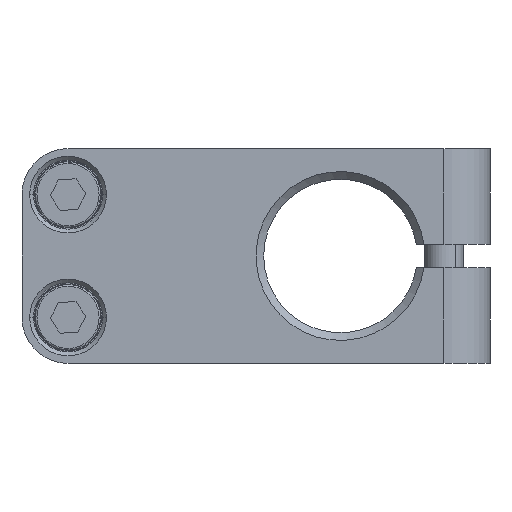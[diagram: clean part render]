
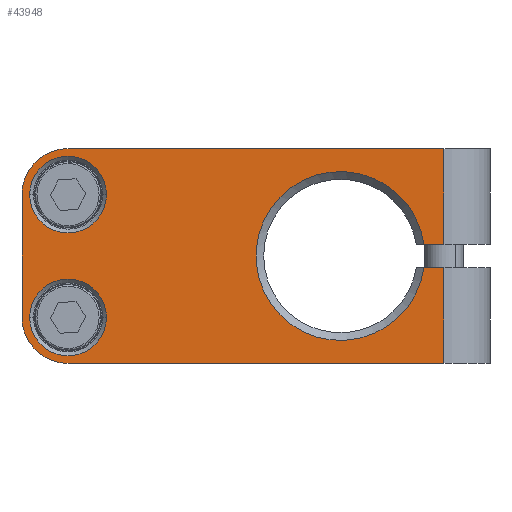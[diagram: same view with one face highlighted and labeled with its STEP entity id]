
A CAD part, front view. The second image highlights one B-rep face of the part: STEP entity #43948.
In plain terms, the highlighted planar face has unit normal (0, -1, 0).
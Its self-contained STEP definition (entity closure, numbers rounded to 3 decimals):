
#429 = FACE_BOUND ( 'NONE', #19327, .T. ) ;
#434 = DIRECTION ( 'NONE',  ( 1., 0., 0. ) ) ;
#554 = CARTESIAN_POINT ( 'NONE',  ( -11.681, 8.096, -22.403 ) ) ;
#1485 = EDGE_CURVE ( 'NONE', #24439, #2081, #42775, .T. ) ;
#1993 = CARTESIAN_POINT ( 'NONE',  ( -17.681, 8.096, -38.403 ) ) ;
#2011 = AXIS2_PLACEMENT_3D ( 'NONE', #17750, #16886, #6444 ) ;
#2081 = VERTEX_POINT ( 'NONE', #10574 ) ;
#2968 = PLANE ( 'NONE',  #40003 ) ;
#3474 = CARTESIAN_POINT ( 'NONE',  ( 37.319, 8.096, -16.403 ) ) ;
#3479 = LINE ( 'NONE', #44107, #17529 ) ;
#3782 = CARTESIAN_POINT ( 'NONE',  ( 37.319, 8.096, -44.403 ) ) ;
#4293 = CARTESIAN_POINT ( 'NONE',  ( 37.319, 8.096, -30.403 ) ) ;
#4713 = LINE ( 'NONE', #15178, #35232 ) ;
#5546 = EDGE_CURVE ( 'NONE', #18550, #26219, #3479, .T. ) ;
#5562 = VERTEX_POINT ( 'NONE', #34925 ) ;
#5637 = CARTESIAN_POINT ( 'NONE',  ( -11.681, 8.096, -22.403 ) ) ;
#6131 = CARTESIAN_POINT ( 'NONE',  ( -11.681, 8.096, -38.403 ) ) ;
#6444 = DIRECTION ( 'NONE',  ( 1., 0., 0. ) ) ;
#8019 = CARTESIAN_POINT ( 'NONE',  ( -17.681, 8.096, -22.403 ) ) ;
#8148 = AXIS2_PLACEMENT_3D ( 'NONE', #15847, #43446, #39347 ) ;
#8384 = ORIENTED_EDGE ( 'NONE', *, *, #5546, .F. ) ;
#8594 = DIRECTION ( 'NONE',  ( -1., 0., 0. ) ) ;
#9124 = DIRECTION ( 'NONE',  ( 0., -1., 0. ) ) ;
#9225 = ORIENTED_EDGE ( 'NONE', *, *, #18240, .F. ) ;
#9718 = EDGE_CURVE ( 'NONE', #24135, #33825, #35487, .T. ) ;
#10344 = EDGE_CURVE ( 'NONE', #35835, #16112, #38790, .T. ) ;
#10574 = CARTESIAN_POINT ( 'NONE',  ( 34.716, 8.096, -31.903 ) ) ;
#11103 = ORIENTED_EDGE ( 'NONE', *, *, #17770, .F. ) ;
#11426 = DIRECTION ( 'NONE',  ( -1., 0., 0. ) ) ;
#11827 = CARTESIAN_POINT ( 'NONE',  ( -11.681, 8.096, -44.403 ) ) ;
#11840 = ORIENTED_EDGE ( 'NONE', *, *, #13411, .F. ) ;
#11869 = DIRECTION ( 'NONE',  ( 0., 1., 0. ) ) ;
#11920 = ORIENTED_EDGE ( 'NONE', *, *, #38220, .F. ) ;
#12404 = EDGE_LOOP ( 'NONE', ( #11103, #29234 ) ) ;
#12451 = VECTOR ( 'NONE', #434, 1000. ) ;
#13197 = ORIENTED_EDGE ( 'NONE', *, *, #26464, .F. ) ;
#13411 = EDGE_CURVE ( 'NONE', #26219, #35835, #20332, .T. ) ;
#14185 = DIRECTION ( 'NONE',  ( 1., 0., 0. ) ) ;
#14791 = VECTOR ( 'NONE', #11426, 1000. ) ;
#15077 = CARTESIAN_POINT ( 'NONE',  ( 15.819, 8.096, -16.403 ) ) ;
#15178 = CARTESIAN_POINT ( 'NONE',  ( 37.319, 8.096, -22.653 ) ) ;
#15261 = ORIENTED_EDGE ( 'NONE', *, *, #17593, .F. ) ;
#15514 = CARTESIAN_POINT ( 'NONE',  ( 37.319, 8.096, -31.903 ) ) ;
#15847 = CARTESIAN_POINT ( 'NONE',  ( -11.681, 8.096, -38.403 ) ) ;
#15914 = CARTESIAN_POINT ( 'NONE',  ( 34.716, 8.096, -28.903 ) ) ;
#16052 = DIRECTION ( 'NONE',  ( -1., 0., 0. ) ) ;
#16112 = VERTEX_POINT ( 'NONE', #3474 ) ;
#16377 = CARTESIAN_POINT ( 'NONE',  ( 37.319, 8.096, -28.903 ) ) ;
#16823 = VERTEX_POINT ( 'NONE', #17375 ) ;
#16886 = DIRECTION ( 'NONE',  ( 0., -1., 0. ) ) ;
#17136 = EDGE_LOOP ( 'NONE', ( #39308, #9225, #39100, #19320, #32601, #13197, #34470, #20507, #11840, #8384 ) ) ;
#17375 = CARTESIAN_POINT ( 'NONE',  ( -6.681, 8.096, -38.403 ) ) ;
#17529 = VECTOR ( 'NONE', #21043, 1000. ) ;
#17531 = FACE_BOUND ( 'NONE', #12404, .T. ) ;
#17593 = EDGE_CURVE ( 'NONE', #16823, #5562, #29219, .T. ) ;
#17750 = CARTESIAN_POINT ( 'NONE',  ( 23.819, 8.096, -30.403 ) ) ;
#17770 = EDGE_CURVE ( 'NONE', #23385, #18692, #35824, .T. ) ;
#18240 = EDGE_CURVE ( 'NONE', #33825, #39795, #33266, .T. ) ;
#18550 = VERTEX_POINT ( 'NONE', #1993 ) ;
#18611 = LINE ( 'NONE', #32722, #25050 ) ;
#18692 = VERTEX_POINT ( 'NONE', #24302 ) ;
#18866 = DIRECTION ( 'NONE',  ( 0., 0., 1. ) ) ;
#19320 = ORIENTED_EDGE ( 'NONE', *, *, #36785, .F. ) ;
#19327 = EDGE_LOOP ( 'NONE', ( #15261, #11920 ) ) ;
#20114 = VECTOR ( 'NONE', #14185, 1000. ) ;
#20332 = CIRCLE ( 'NONE', #39959, 6. ) ;
#20507 = ORIENTED_EDGE ( 'NONE', *, *, #10344, .F. ) ;
#21043 = DIRECTION ( 'NONE',  ( 0., 0., 1. ) ) ;
#21175 = VERTEX_POINT ( 'NONE', #16377 ) ;
#21473 = EDGE_CURVE ( 'NONE', #18692, #23385, #37760, .T. ) ;
#22418 = EDGE_CURVE ( 'NONE', #21175, #16112, #4713, .T. ) ;
#23385 = VERTEX_POINT ( 'NONE', #25323 ) ;
#23789 = DIRECTION ( 'NONE',  ( 0., 1., 0. ) ) ;
#24121 = CIRCLE ( 'NONE', #8148, 5. ) ;
#24135 = VERTEX_POINT ( 'NONE', #15514 ) ;
#24302 = CARTESIAN_POINT ( 'NONE',  ( -16.681, 8.096, -22.403 ) ) ;
#24439 = VERTEX_POINT ( 'NONE', #15914 ) ;
#25050 = VECTOR ( 'NONE', #8594, 1000. ) ;
#25323 = CARTESIAN_POINT ( 'NONE',  ( -6.681, 8.096, -22.403 ) ) ;
#26219 = VERTEX_POINT ( 'NONE', #8019 ) ;
#26464 = EDGE_CURVE ( 'NONE', #21175, #24439, #18611, .T. ) ;
#27775 = DIRECTION ( 'NONE',  ( 0., 0., 1. ) ) ;
#29073 = DIRECTION ( 'NONE',  ( 0., 0., -1. ) ) ;
#29219 = CIRCLE ( 'NONE', #32862, 5. ) ;
#29234 = ORIENTED_EDGE ( 'NONE', *, *, #21473, .F. ) ;
#30222 = DIRECTION ( 'NONE',  ( 0., -1., 0. ) ) ;
#30756 = FACE_OUTER_BOUND ( 'NONE', #17136, .T. ) ;
#31546 = DIRECTION ( 'NONE',  ( 1., 0., 0. ) ) ;
#32601 = ORIENTED_EDGE ( 'NONE', *, *, #1485, .F. ) ;
#32722 = CARTESIAN_POINT ( 'NONE',  ( 9.819, 8.096, -28.903 ) ) ;
#32826 = DIRECTION ( 'NONE',  ( -1., 0., 0. ) ) ;
#32862 = AXIS2_PLACEMENT_3D ( 'NONE', #6131, #9124, #40533 ) ;
#33266 = LINE ( 'NONE', #36002, #14791 ) ;
#33350 = AXIS2_PLACEMENT_3D ( 'NONE', #44529, #23789, #16052 ) ;
#33825 = VERTEX_POINT ( 'NONE', #3782 ) ;
#34470 = ORIENTED_EDGE ( 'NONE', *, *, #22418, .T. ) ;
#34846 = LINE ( 'NONE', #35080, #12451 ) ;
#34868 = EDGE_CURVE ( 'NONE', #39795, #18550, #36986, .T. ) ;
#34925 = CARTESIAN_POINT ( 'NONE',  ( -16.681, 8.096, -38.403 ) ) ;
#35075 = DIRECTION ( 'NONE',  ( 0., 1., 0. ) ) ;
#35080 = CARTESIAN_POINT ( 'NONE',  ( 9.819, 8.096, -31.903 ) ) ;
#35232 = VECTOR ( 'NONE', #18866, 1000. ) ;
#35487 = LINE ( 'NONE', #4293, #36840 ) ;
#35824 = CIRCLE ( 'NONE', #41645, 5. ) ;
#35835 = VERTEX_POINT ( 'NONE', #37510 ) ;
#36002 = CARTESIAN_POINT ( 'NONE',  ( 9.819, 8.096, -44.403 ) ) ;
#36298 = AXIS2_PLACEMENT_3D ( 'NONE', #554, #42260, #31546 ) ;
#36785 = EDGE_CURVE ( 'NONE', #2081, #24135, #34846, .T. ) ;
#36840 = VECTOR ( 'NONE', #29073, 1000. ) ;
#36986 = CIRCLE ( 'NONE', #33350, 6. ) ;
#37510 = CARTESIAN_POINT ( 'NONE',  ( -11.681, 8.096, -16.403 ) ) ;
#37760 = CIRCLE ( 'NONE', #36298, 5. ) ;
#38220 = EDGE_CURVE ( 'NONE', #5562, #16823, #24121, .T. ) ;
#38790 = LINE ( 'NONE', #15077, #20114 ) ;
#39100 = ORIENTED_EDGE ( 'NONE', *, *, #9718, .F. ) ;
#39308 = ORIENTED_EDGE ( 'NONE', *, *, #34868, .F. ) ;
#39347 = DIRECTION ( 'NONE',  ( 1., 0., 0. ) ) ;
#39795 = VERTEX_POINT ( 'NONE', #11827 ) ;
#39959 = AXIS2_PLACEMENT_3D ( 'NONE', #43069, #11869, #32826 ) ;
#40003 = AXIS2_PLACEMENT_3D ( 'NONE', #41914, #35075, #27775 ) ;
#40533 = DIRECTION ( 'NONE',  ( 1., 0., 0. ) ) ;
#41645 = AXIS2_PLACEMENT_3D ( 'NONE', #5637, #30222, #44355 ) ;
#41914 = CARTESIAN_POINT ( 'NONE',  ( -17.681, 8.096, -44.403 ) ) ;
#42260 = DIRECTION ( 'NONE',  ( 0., -1., 0. ) ) ;
#42775 = CIRCLE ( 'NONE', #2011, 11. ) ;
#43069 = CARTESIAN_POINT ( 'NONE',  ( -11.681, 8.096, -22.403 ) ) ;
#43446 = DIRECTION ( 'NONE',  ( 0., -1., 0. ) ) ;
#43948 = ADVANCED_FACE ( 'NONE', ( #17531, #429, #30756 ), #2968, .F. ) ;
#44107 = CARTESIAN_POINT ( 'NONE',  ( -17.681, 8.096, -30.403 ) ) ;
#44355 = DIRECTION ( 'NONE',  ( 1., 0., 0. ) ) ;
#44529 = CARTESIAN_POINT ( 'NONE',  ( -11.681, 8.096, -38.403 ) ) ;
